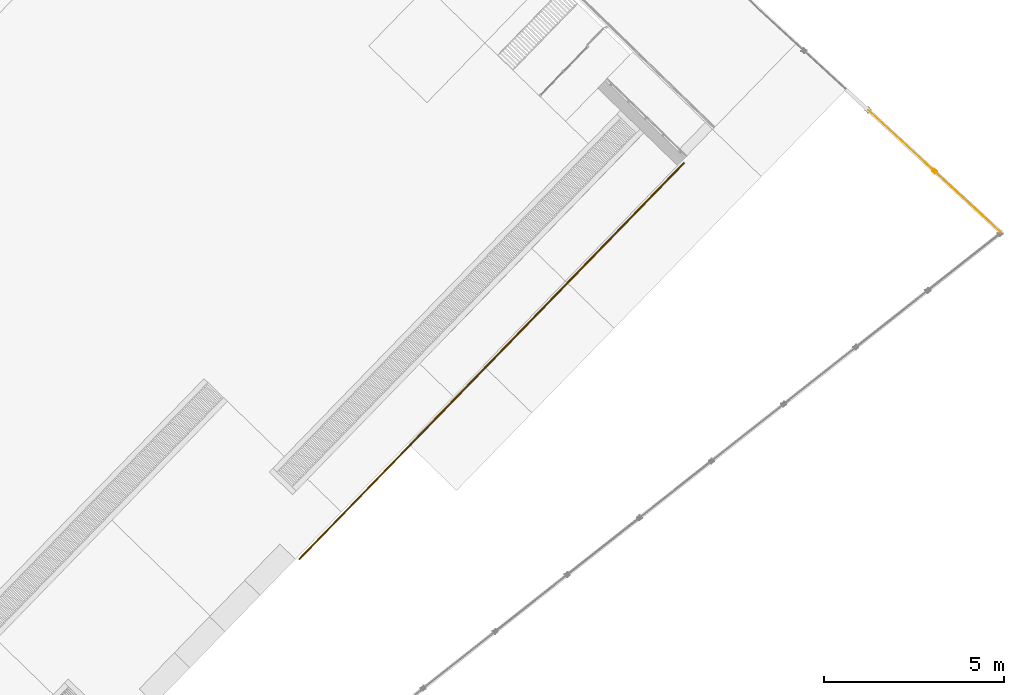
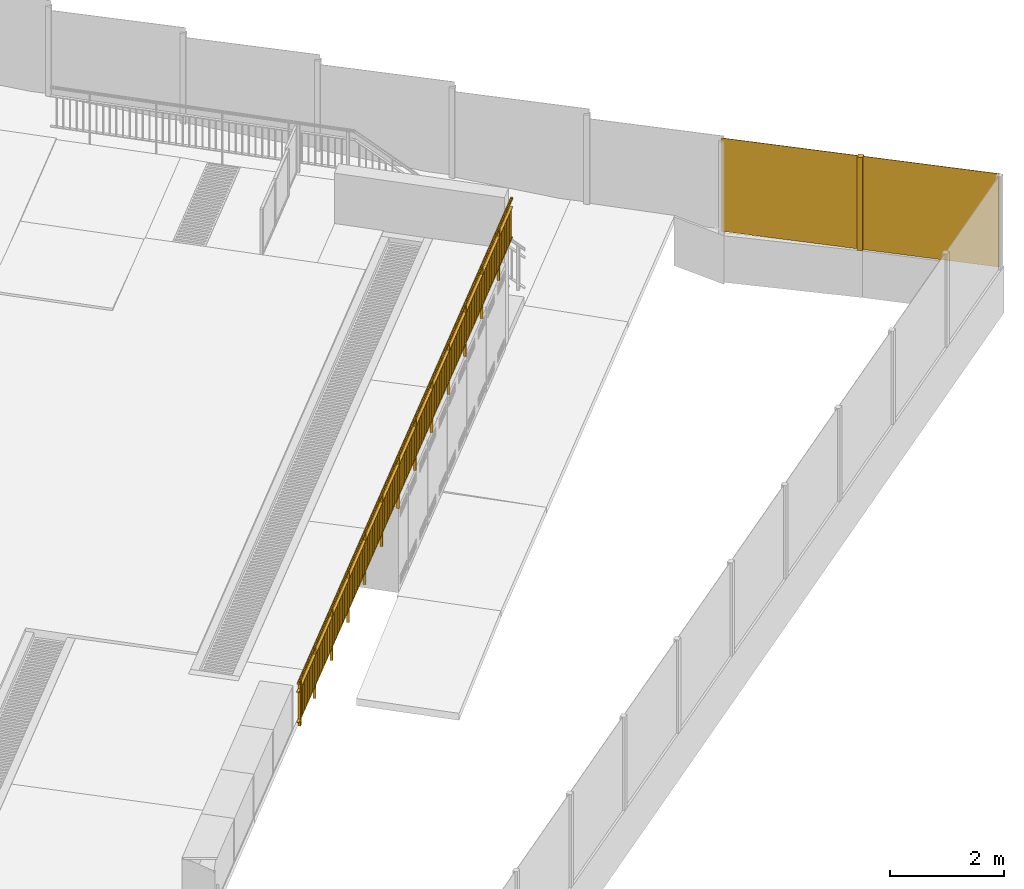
# One storey, part 27 of 37: 2 railings.
"""IFC2X3 building model written with IfcOpenShell, lengths in centimetres."""

from ifc_helpers import new_model, entity, si_unit, converted_unit, derived_unit, direction, frame, frame_2d, origin, origin_2d_with_axis, place, context, subcontext, project, spatial, rectangle, circle, extrude, material, material_list, element, save


model = new_model("IFC2X3")

# Units and contexts
model_context = context("Model", 3, precision=0.001, world=origin(), true_north=direction((0.717475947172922, 0.696583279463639)))
body_context = subcontext(model_context, "Body", "Model", "MODEL_VIEW")
ifc_project = project(units=[si_unit("LENGTHUNIT", "METRE", prefix="CENTI"), si_unit("AREAUNIT", "SQUARE_METRE"), si_unit("VOLUMEUNIT", "CUBIC_METRE"), converted_unit("PLANEANGLEUNIT", "DEGREE", entity("IfcRatioMeasure", 0.0174532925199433), si_unit("PLANEANGLEUNIT", "RADIAN"), dimensions=[0, 0, 0, 0, 0, 0, 0]), si_unit("MASSUNIT", "GRAM", prefix="KILO"), derived_unit("MASSDENSITYUNIT", [(si_unit("MASSUNIT", "GRAM", prefix="KILO"), 1), (si_unit("LENGTHUNIT", "METRE"), -3)]), si_unit("TIMEUNIT", "SECOND"), si_unit("FREQUENCYUNIT", "HERTZ"), si_unit("THERMODYNAMICTEMPERATUREUNIT", "DEGREE_CELSIUS"), derived_unit("THERMALTRANSMITTANCEUNIT", [(si_unit("MASSUNIT", "GRAM", prefix="KILO"), 1), (si_unit("THERMODYNAMICTEMPERATUREUNIT", "KELVIN"), -1), (si_unit("TIMEUNIT", "SECOND"), -3)]), derived_unit("VOLUMETRICFLOWRATEUNIT", [(si_unit("LENGTHUNIT", "METRE"), 3), (si_unit("TIMEUNIT", "SECOND"), -1)]), si_unit("ELECTRICCURRENTUNIT", "AMPERE"), si_unit("ELECTRICVOLTAGEUNIT", "VOLT"), si_unit("POWERUNIT", "WATT"), si_unit("FORCEUNIT", "NEWTON", prefix="KILO"), si_unit("ILLUMINANCEUNIT", "LUX"), si_unit("LUMINOUSFLUXUNIT", "LUMEN"), si_unit("LUMINOUSINTENSITYUNIT", "CANDELA"), derived_unit("USERDEFINED", [(si_unit("MASSUNIT", "GRAM", prefix="KILO"), -1), (si_unit("LENGTHUNIT", "METRE"), -2), (si_unit("TIMEUNIT", "SECOND"), 3), (si_unit("LUMINOUSFLUXUNIT", "LUMEN"), 1)]), derived_unit("LINEARVELOCITYUNIT", [(si_unit("LENGTHUNIT", "METRE"), 1), (si_unit("TIMEUNIT", "SECOND"), -1)]), si_unit("PRESSUREUNIT", "PASCAL"), derived_unit("USERDEFINED", [(si_unit("LENGTHUNIT", "METRE"), -2), (si_unit("MASSUNIT", "GRAM", prefix="KILO"), 1), (si_unit("TIMEUNIT", "SECOND"), -2)])], contexts=[model_context])

# Site, building, storey
site_placement = place(None, frame((0.0, 0.0, 0.0), z_axis=(0.0, 0.0, 1.0), x_axis=(0.696583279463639, 0.717475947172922, 0.0)))
site = spatial("IfcSite", under=ifc_project, at=site_placement, Name="Surface", CompositionType="ELEMENT")
building_placement = place(site_placement, origin())
building = spatial("IfcBuilding", under=site, at=building_placement, CompositionType="ELEMENT")
storey_placement = place(building_placement, origin())
storey = spatial("IfcBuildingStorey", under=building, at=storey_placement, Name="Nivel 0.00", CompositionType="ELEMENT", Elevation=0.0)

# Railings
ifc_material_1 = material(Name="Aluminum")
railing_1_placement = place(storey_placement, origin())
element("IfcRailing", 1, at=railing_1_placement, inside=storey, material=ifc_material_1, Name="Railing:BARANDA_RAMPA_1000mm", ObjectType="Railing:BARANDA_RAMPA_1000mm", PredefinedType="NOTDEFINED", context=body_context, shape_type="SweptSolid", body=[
    extrude(rectangle(XDim=1.19999999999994, YDim=4.99999999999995, at=frame_2d((-1.08302256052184e-13, 2.16715534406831e-13), x_axis=(1.0, 0.0))), frame((1669.74790965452, -1572.8079503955, 165.0)), (0.0, 0.0, 1.0), 63.7999999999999),
    extrude(rectangle(XDim=1.19999999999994, YDim=4.99999999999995, at=frame_2d((-1.08302256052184e-13, 2.16715534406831e-13), x_axis=(1.0, 0.0))), frame((1657.74790965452, -1572.8079503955, 165.0)), (0.0, 0.0, 1.0), 63.7999999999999),
    extrude(rectangle(XDim=1.19999999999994, YDim=4.99999999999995, at=frame_2d((-1.08302256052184e-13, 0.0), x_axis=(1.0, 0.0))), frame((1645.74790965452, -1572.8079503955, 165.0)), (0.0, 0.0, 1.0), 63.7999999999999),
    extrude(rectangle(XDim=1.19999999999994, YDim=4.99999999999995, at=frame_2d((1.08302256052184e-13, 0.0), x_axis=(1.0, 0.0))), frame((1633.74790965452, -1572.8079503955, 165.0)), (0.0, 0.0, 1.0), 63.7999999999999),
    extrude(rectangle(XDim=1.19999999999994, YDim=4.99999999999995, at=frame_2d((-1.08302256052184e-13, 0.0), x_axis=(1.0, 0.0))), frame((1621.74790965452, -1572.8079503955, 165.0)), (0.0, 0.0, 1.0), 63.7999999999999),
    extrude(rectangle(XDim=1.19999999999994, YDim=4.99999999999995, at=frame_2d((-1.08302256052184e-13, 0.0), x_axis=(1.0, 0.0))), frame((1609.74790965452, -1572.8079503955, 165.0)), (0.0, 0.0, 1.0), 63.7999999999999),
    extrude(rectangle(XDim=1.19999999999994, YDim=4.99999999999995, at=frame_2d((1.08302256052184e-13, 0.0), x_axis=(1.0, 0.0))), frame((1597.74790965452, -1572.8079503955, 165.0)), (0.0, 0.0, 1.0), 63.7999999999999),
    extrude(rectangle(XDim=1.19999999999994, YDim=4.99999999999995, at=frame_2d((1.08302256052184e-13, 0.0), x_axis=(1.0, 0.0))), frame((1585.74790965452, -1572.8079503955, 135.0)), (0.0, 0.0, 1.0), 110.0),
    extrude(rectangle(XDim=1.19999999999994, YDim=4.99999999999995, at=frame_2d((1.08302256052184e-13, 0.0), x_axis=(1.0, 0.0))), frame((1573.74790965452, -1572.8079503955, 165.0)), (0.0, 0.0, 1.0), 63.7999999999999),
    extrude(rectangle(XDim=1.19999999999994, YDim=4.99999999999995, at=frame_2d((-1.08302256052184e-13, 0.0), x_axis=(1.0, 0.0))), frame((1561.74790965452, -1572.8079503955, 165.0)), (0.0, 0.0, 1.0), 63.7999999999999),
    extrude(rectangle(XDim=1.19999999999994, YDim=4.99999999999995, at=frame_2d((1.08302256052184e-13, 0.0), x_axis=(1.0, 0.0))), frame((1549.74790965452, -1572.8079503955, 165.0)), (0.0, 0.0, 1.0), 63.7999999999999),
    extrude(rectangle(XDim=1.19999999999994, YDim=4.99999999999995, at=frame_2d((-1.08302256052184e-13, 0.0), x_axis=(1.0, 0.0))), frame((1537.74790965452, -1572.8079503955, 165.0)), (0.0, 0.0, 1.0), 63.7999999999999),
    extrude(rectangle(XDim=1.19999999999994, YDim=4.99999999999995, at=frame_2d((1.08302256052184e-13, 0.0), x_axis=(1.0, 0.0))), frame((1525.74790965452, -1572.8079503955, 165.0)), (0.0, 0.0, 1.0), 63.7999999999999),
    extrude(rectangle(XDim=1.19999999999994, YDim=4.99999999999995, at=frame_2d((-1.08302256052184e-13, 0.0), x_axis=(1.0, 0.0))), frame((1513.74790965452, -1572.8079503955, 165.0)), (0.0, 0.0, 1.0), 63.7999999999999),
    extrude(rectangle(XDim=1.19999999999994, YDim=4.99999999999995, at=frame_2d((-1.08302256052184e-13, 0.0), x_axis=(1.0, 0.0))), frame((1501.74790965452, -1572.8079503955, 165.0)), (0.0, 0.0, 1.0), 63.7999999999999),
    extrude(rectangle(XDim=1.19999999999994, YDim=4.99999999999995, at=frame_2d((1.08302256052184e-13, 0.0), x_axis=(1.0, 0.0))), frame((1489.74790965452, -1572.8079503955, 165.0)), (0.0, 0.0, 1.0), 63.7999999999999),
    extrude(rectangle(XDim=1.19999999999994, YDim=4.99999999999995, at=frame_2d((1.08302256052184e-13, 0.0), x_axis=(1.0, 0.0))), frame((1477.74790965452, -1572.8079503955, 165.0)), (0.0, 0.0, 1.0), 63.7999999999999),
    extrude(rectangle(XDim=1.19999999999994, YDim=4.99999999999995, at=frame_2d((1.08302256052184e-13, 0.0), x_axis=(1.0, 0.0))), frame((1465.74790965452, -1572.8079503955, 135.0)), (0.0, 0.0, 1.0), 110.0),
    extrude(rectangle(XDim=1.19999999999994, YDim=4.99999999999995, at=frame_2d((1.08302256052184e-13, 0.0), x_axis=(1.0, 0.0))), frame((1453.74790965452, -1572.8079503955, 165.0)), (0.0, 0.0, 1.0), 63.7999999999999),
    extrude(rectangle(XDim=1.19999999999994, YDim=4.99999999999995, at=frame_2d((1.08302256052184e-13, 0.0), x_axis=(1.0, 0.0))), frame((1441.74790965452, -1572.8079503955, 165.0)), (0.0, 0.0, 1.0), 63.7999999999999),
    extrude(rectangle(XDim=1.19999999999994, YDim=4.99999999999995, at=frame_2d((-1.08302256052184e-13, 0.0), x_axis=(1.0, 0.0))), frame((1429.74790965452, -1572.8079503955, 165.0)), (0.0, 0.0, 1.0), 63.7999999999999),
    extrude(rectangle(XDim=1.19999999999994, YDim=4.99999999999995, at=frame_2d((1.08302256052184e-13, 0.0), x_axis=(1.0, 0.0))), frame((1417.74790965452, -1572.8079503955, 165.0)), (0.0, 0.0, 1.0), 63.7999999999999),
    extrude(rectangle(XDim=1.19999999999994, YDim=4.99999999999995, at=frame_2d((-1.08302256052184e-13, 0.0), x_axis=(1.0, 0.0))), frame((1405.74790965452, -1572.8079503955, 165.0)), (0.0, 0.0, 1.0), 63.7999999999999),
    extrude(rectangle(XDim=1.19999999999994, YDim=4.99999999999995, at=frame_2d((1.08302256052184e-13, 0.0), x_axis=(1.0, 0.0))), frame((1393.74790965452, -1572.8079503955, 165.0)), (0.0, 0.0, 1.0), 63.7999999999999),
    extrude(rectangle(XDim=1.19999999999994, YDim=4.99999999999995, at=frame_2d((1.08302256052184e-13, 0.0), x_axis=(1.0, 0.0))), frame((1381.74790965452, -1572.8079503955, 165.0)), (0.0, 0.0, 1.0), 63.7999999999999),
    extrude(rectangle(XDim=1.19999999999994, YDim=4.99999999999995, at=frame_2d((1.08302256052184e-13, 0.0), x_axis=(1.0, 0.0))), frame((1369.74790965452, -1572.8079503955, 165.0)), (0.0, 0.0, 1.0), 63.7999999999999),
    extrude(rectangle(XDim=1.19999999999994, YDim=4.99999999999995, at=frame_2d((1.08302256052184e-13, 0.0), x_axis=(1.0, 0.0))), frame((1357.74790965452, -1572.8079503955, 165.0)), (0.0, 0.0, 1.0), 63.7999999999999),
    extrude(rectangle(XDim=1.19999999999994, YDim=4.99999999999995, at=frame_2d((-1.08302256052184e-13, 0.0), x_axis=(1.0, 0.0))), frame((1345.74790965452, -1572.8079503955, 135.0)), (0.0, 0.0, 1.0), 110.0),
    extrude(rectangle(XDim=1.19999999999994, YDim=4.99999999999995, at=frame_2d((1.08302256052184e-13, 0.0), x_axis=(1.0, 0.0))), frame((1333.74790965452, -1572.8079503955, 165.0)), (0.0, 0.0, 1.0), 63.7999999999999),
    extrude(rectangle(XDim=1.19999999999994, YDim=4.99999999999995, at=frame_2d((1.08302256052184e-13, 0.0), x_axis=(1.0, 0.0))), frame((1321.74790965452, -1572.8079503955, 165.0)), (0.0, 0.0, 1.0), 63.7999999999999),
    extrude(rectangle(XDim=1.19999999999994, YDim=4.99999999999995, at=frame_2d((-1.08302256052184e-13, 0.0), x_axis=(1.0, 0.0))), frame((1309.74790965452, -1572.8079503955, 165.0)), (0.0, 0.0, 1.0), 63.7999999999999),
    extrude(rectangle(XDim=1.19999999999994, YDim=4.99999999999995, at=frame_2d((-1.08302256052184e-13, 0.0), x_axis=(1.0, 0.0))), frame((1297.74790965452, -1572.8079503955, 165.0)), (0.0, 0.0, 1.0), 63.7999999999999),
    extrude(rectangle(XDim=1.19999999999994, YDim=4.99999999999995, at=frame_2d((1.08302256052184e-13, 0.0), x_axis=(1.0, 0.0))), frame((1285.74790965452, -1572.8079503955, 165.0)), (0.0, 0.0, 1.0), 63.7999999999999),
    extrude(rectangle(XDim=1.19999999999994, YDim=4.99999999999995, at=frame_2d((-1.08302256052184e-13, 0.0), x_axis=(1.0, 0.0))), frame((1273.74790965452, -1572.8079503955, 165.0)), (0.0, 0.0, 1.0), 63.7999999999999),
    extrude(rectangle(XDim=1.19999999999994, YDim=4.99999999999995, at=frame_2d((1.08302256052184e-13, 0.0), x_axis=(1.0, 0.0))), frame((1261.74790965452, -1572.8079503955, 165.0)), (0.0, 0.0, 1.0), 63.7999999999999),
    extrude(rectangle(XDim=1.19999999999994, YDim=4.99999999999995, at=frame_2d((1.08302256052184e-13, 0.0), x_axis=(1.0, 0.0))), frame((1249.74790965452, -1572.8079503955, 165.0)), (0.0, 0.0, 1.0), 63.7999999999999),
    extrude(rectangle(XDim=1.19999999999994, YDim=4.99999999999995, at=frame_2d((1.08302256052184e-13, 0.0), x_axis=(1.0, 0.0))), frame((1237.74790965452, -1572.8079503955, 165.0)), (0.0, 0.0, 1.0), 63.7999999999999),
    extrude(rectangle(XDim=1.19999999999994, YDim=4.99999999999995, at=frame_2d((-1.08302256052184e-13, 0.0), x_axis=(1.0, 0.0))), frame((1225.74790965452, -1572.8079503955, 135.0)), (0.0, 0.0, 1.0), 110.0),
    extrude(rectangle(XDim=1.19999999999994, YDim=4.99999999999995, at=frame_2d((1.08302256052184e-13, 0.0), x_axis=(1.0, 0.0))), frame((1213.74790965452, -1572.8079503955, 165.0)), (0.0, 0.0, 1.0), 63.7999999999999),
    extrude(rectangle(XDim=1.19999999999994, YDim=4.99999999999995, at=frame_2d((1.08302256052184e-13, 0.0), x_axis=(1.0, 0.0))), frame((1201.74790965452, -1572.8079503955, 165.0)), (0.0, 0.0, 1.0), 63.7999999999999),
    extrude(rectangle(XDim=1.19999999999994, YDim=4.99999999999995, at=frame_2d((-1.08302256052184e-13, 0.0), x_axis=(1.0, 0.0))), frame((1189.74790965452, -1572.8079503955, 165.0)), (0.0, 0.0, 1.0), 63.7999999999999),
    extrude(rectangle(XDim=1.19999999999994, YDim=4.99999999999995, at=frame_2d((-1.08302256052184e-13, 2.16715534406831e-13), x_axis=(1.0, 0.0))), frame((1177.74790965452, -1572.8079503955, 165.0)), (0.0, 0.0, 1.0), 63.7999999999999),
    extrude(rectangle(XDim=1.19999999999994, YDim=4.99999999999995, at=frame_2d((1.08302256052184e-13, 2.16715534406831e-13), x_axis=(1.0, 0.0))), frame((1165.74790965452, -1572.8079503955, 165.0)), (0.0, 0.0, 1.0), 63.7999999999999),
    extrude(rectangle(XDim=1.19999999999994, YDim=4.99999999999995, at=frame_2d((-1.08302256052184e-13, 2.16715534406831e-13), x_axis=(1.0, 0.0))), frame((1153.74790965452, -1572.8079503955, 165.0)), (0.0, 0.0, 1.0), 63.7999999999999),
    extrude(rectangle(XDim=1.19999999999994, YDim=4.99999999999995, at=frame_2d((-1.08302256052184e-13, 2.16715534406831e-13), x_axis=(1.0, 0.0))), frame((1141.74790965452, -1572.8079503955, 165.0)), (0.0, 0.0, 1.0), 63.7999999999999),
    extrude(rectangle(XDim=1.19999999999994, YDim=4.99999999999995, at=frame_2d((1.08302256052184e-13, 2.16715534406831e-13), x_axis=(1.0, 0.0))), frame((1129.74790965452, -1572.8079503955, 165.0)), (0.0, 0.0, 1.0), 63.7999999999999),
    extrude(rectangle(XDim=1.19999999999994, YDim=4.99999999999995, at=frame_2d((1.08302256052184e-13, 2.16715534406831e-13), x_axis=(1.0, 0.0))), frame((1117.74790965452, -1572.8079503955, 165.0)), (0.0, 0.0, 1.0), 63.7999999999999),
    extrude(rectangle(XDim=1.19999999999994, YDim=4.99999999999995, at=frame_2d((-1.08302256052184e-13, 0.0), x_axis=(1.0, 0.0))), frame((1105.74790965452, -1572.8079503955, 135.0)), (0.0, 0.0, 1.0), 110.0),
    extrude(rectangle(XDim=1.19999999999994, YDim=4.99999999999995, at=frame_2d((1.08302256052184e-13, 0.0), x_axis=(1.0, 0.0))), frame((1093.74790965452, -1572.8079503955, 165.0)), (0.0, 0.0, 1.0), 63.7999999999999),
    extrude(rectangle(XDim=1.19999999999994, YDim=4.99999999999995, at=frame_2d((-1.08302256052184e-13, 0.0), x_axis=(1.0, 0.0))), frame((1081.74790965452, -1572.8079503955, 165.0)), (0.0, 0.0, 1.0), 63.7999999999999),
    extrude(rectangle(XDim=1.19999999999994, YDim=4.99999999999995, at=frame_2d((1.08302256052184e-13, 0.0), x_axis=(1.0, 0.0))), frame((1069.74790965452, -1572.8079503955, 165.0)), (0.0, 0.0, 1.0), 63.7999999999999),
    extrude(rectangle(XDim=1.19999999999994, YDim=4.99999999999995, at=frame_2d((1.08302256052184e-13, 0.0), x_axis=(1.0, 0.0))), frame((1057.74790965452, -1572.8079503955, 165.0)), (0.0, 0.0, 1.0), 63.7999999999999),
    extrude(rectangle(XDim=1.19999999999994, YDim=4.99999999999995, at=frame_2d((-1.08302256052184e-13, 0.0), x_axis=(1.0, 0.0))), frame((1045.74790965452, -1572.8079503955, 165.0)), (0.0, 0.0, 1.0), 63.7999999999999),
    extrude(rectangle(XDim=1.19999999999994, YDim=4.99999999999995, at=frame_2d((-1.08302256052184e-13, 0.0), x_axis=(1.0, 0.0))), frame((1033.74790965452, -1572.8079503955, 165.0)), (0.0, 0.0, 1.0), 63.7999999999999),
    extrude(rectangle(XDim=1.19999999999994, YDim=4.99999999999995, at=frame_2d((-1.08302256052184e-13, 0.0), x_axis=(1.0, 0.0))), frame((1021.74790965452, -1572.8079503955, 165.0)), (0.0, 0.0, 1.0), 63.7999999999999),
    extrude(rectangle(XDim=1.19999999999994, YDim=4.99999999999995, at=frame_2d((-1.08302256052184e-13, 0.0), x_axis=(1.0, 0.0))), frame((1009.74790965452, -1572.8079503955, 165.0)), (0.0, 0.0, 1.0), 63.7999999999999),
    extrude(rectangle(XDim=1.19999999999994, YDim=4.99999999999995, at=frame_2d((-1.08302256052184e-13, 0.0), x_axis=(1.0, 0.0))), frame((997.747909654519, -1572.8079503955, 165.0)), (0.0, 0.0, 1.0), 63.7999999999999),
    extrude(rectangle(XDim=1.19999999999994, YDim=4.99999999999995, at=frame_2d((-1.08302256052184e-13, 0.0), x_axis=(1.0, 0.0))), frame((985.747909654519, -1572.8079503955, 135.0)), (0.0, 0.0, 1.0), 110.0),
    extrude(rectangle(XDim=1.20000000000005, YDim=4.99999999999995, at=frame_2d((-5.41233724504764e-14, 0.0), x_axis=(1.0, 0.0))), frame((973.747909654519, -1572.8079503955, 165.0)), (0.0, 0.0, 1.0), 63.7999999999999),
    extrude(rectangle(XDim=1.20000000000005, YDim=4.99999999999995, at=frame_2d((5.41233724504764e-14, 0.0), x_axis=(1.0, 0.0))), frame((961.747909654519, -1572.8079503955, 165.0)), (0.0, 0.0, 1.0), 63.7999999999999),
    extrude(rectangle(XDim=1.20000000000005, YDim=4.99999999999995, at=frame_2d((-5.41233724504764e-14, 0.0), x_axis=(1.0, 0.0))), frame((949.747909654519, -1572.8079503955, 165.0)), (0.0, 0.0, 1.0), 63.7999999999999),
    extrude(rectangle(XDim=1.20000000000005, YDim=4.99999999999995, at=frame_2d((-5.41233724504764e-14, 0.0), x_axis=(1.0, 0.0))), frame((937.747909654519, -1572.8079503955, 165.0)), (0.0, 0.0, 1.0), 63.7999999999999),
    extrude(rectangle(XDim=1.20000000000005, YDim=4.99999999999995, at=frame_2d((-5.41233724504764e-14, 0.0), x_axis=(1.0, 0.0))), frame((925.747909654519, -1572.8079503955, 165.0)), (0.0, 0.0, 1.0), 63.7999999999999),
    extrude(rectangle(XDim=1.20000000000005, YDim=4.99999999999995, at=frame_2d((-5.41233724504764e-14, 0.0), x_axis=(1.0, 0.0))), frame((913.747909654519, -1572.8079503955, 165.0)), (0.0, 0.0, 1.0), 63.7999999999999),
    extrude(rectangle(XDim=1.20000000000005, YDim=4.99999999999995, at=frame_2d((5.41233724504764e-14, 0.0), x_axis=(1.0, 0.0))), frame((901.747909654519, -1572.8079503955, 165.0)), (0.0, 0.0, 1.0), 63.7999999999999),
    extrude(rectangle(XDim=1.20000000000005, YDim=4.99999999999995, at=frame_2d((-5.41233724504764e-14, 0.0), x_axis=(1.0, 0.0))), frame((889.747909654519, -1572.8079503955, 165.0)), (0.0, 0.0, 1.0), 63.7999999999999),
    extrude(rectangle(XDim=1.20000000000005, YDim=4.99999999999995, at=frame_2d((5.41233724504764e-14, 0.0), x_axis=(1.0, 0.0))), frame((877.747909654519, -1572.8079503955, 165.0)), (0.0, 0.0, 1.0), 63.7999999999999),
    extrude(rectangle(XDim=1.20000000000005, YDim=4.99999999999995, at=frame_2d((-5.41233724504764e-14, 0.0), x_axis=(1.0, 0.0))), frame((865.747909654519, -1572.8079503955, 135.0)), (0.0, 0.0, 1.0), 110.0),
    extrude(rectangle(XDim=1.20000000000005, YDim=4.99999999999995, at=frame_2d((5.41233724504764e-14, 0.0), x_axis=(1.0, 0.0))), frame((853.747909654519, -1572.8079503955, 165.0)), (0.0, 0.0, 1.0), 63.7999999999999),
    extrude(rectangle(XDim=1.20000000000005, YDim=4.99999999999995, at=frame_2d((-5.41233724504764e-14, 0.0), x_axis=(1.0, 0.0))), frame((841.747909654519, -1572.8079503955, 165.0)), (0.0, 0.0, 1.0), 63.7999999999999),
    extrude(rectangle(XDim=1.20000000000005, YDim=4.99999999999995, at=frame_2d((5.41233724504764e-14, 0.0), x_axis=(1.0, 0.0))), frame((829.747909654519, -1572.8079503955, 165.0)), (0.0, 0.0, 1.0), 63.7999999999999),
    extrude(rectangle(XDim=1.20000000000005, YDim=4.99999999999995, at=frame_2d((-5.41233724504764e-14, 0.0), x_axis=(1.0, 0.0))), frame((817.747909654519, -1572.8079503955, 165.0)), (0.0, 0.0, 1.0), 63.7999999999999),
    extrude(rectangle(XDim=1.20000000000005, YDim=4.99999999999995, at=frame_2d((5.41233724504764e-14, 0.0), x_axis=(1.0, 0.0))), frame((805.747909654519, -1572.8079503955, 165.0)), (0.0, 0.0, 1.0), 63.7999999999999),
    extrude(rectangle(XDim=1.20000000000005, YDim=4.99999999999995, at=frame_2d((-5.41233724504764e-14, 0.0), x_axis=(1.0, 0.0))), frame((793.747909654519, -1572.8079503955, 165.0)), (0.0, 0.0, 1.0), 63.7999999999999),
    extrude(rectangle(XDim=1.20000000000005, YDim=4.99999999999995, at=frame_2d((-5.41233724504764e-14, 0.0), x_axis=(1.0, 0.0))), frame((781.747909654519, -1572.8079503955, 165.0)), (0.0, 0.0, 1.0), 63.7999999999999),
    extrude(rectangle(XDim=1.20000000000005, YDim=4.99999999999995, at=frame_2d((-5.41233724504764e-14, 0.0), x_axis=(1.0, 0.0))), frame((769.747909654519, -1572.8079503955, 165.0)), (0.0, 0.0, 1.0), 63.7999999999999),
    extrude(rectangle(XDim=1.20000000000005, YDim=4.99999999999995, at=frame_2d((-5.41233724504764e-14, 0.0), x_axis=(1.0, 0.0))), frame((757.747909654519, -1572.8079503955, 165.0)), (0.0, 0.0, 1.0), 63.7999999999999),
    extrude(rectangle(XDim=1.20000000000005, YDim=4.99999999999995, at=frame_2d((5.41233724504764e-14, 0.0), x_axis=(1.0, 0.0))), frame((745.747909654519, -1572.8079503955, 135.0)), (0.0, 0.0, 1.0), 110.0),
    extrude(rectangle(XDim=1.20000000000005, YDim=4.99999999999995, at=frame_2d((-5.41233724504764e-14, 0.0), x_axis=(1.0, 0.0))), frame((733.747909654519, -1572.8079503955, 165.0)), (0.0, 0.0, 1.0), 63.7999999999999),
    extrude(rectangle(XDim=1.20000000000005, YDim=4.99999999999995, at=frame_2d((5.41233724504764e-14, 0.0), x_axis=(1.0, 0.0))), frame((721.747909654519, -1572.8079503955, 165.0)), (0.0, 0.0, 1.0), 63.7999999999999),
    extrude(rectangle(XDim=1.20000000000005, YDim=4.99999999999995, at=frame_2d((5.41233724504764e-14, 0.0), x_axis=(1.0, 0.0))), frame((709.747909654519, -1572.8079503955, 165.0)), (0.0, 0.0, 1.0), 63.7999999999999),
    extrude(rectangle(XDim=1.20000000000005, YDim=4.99999999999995, at=frame_2d((5.41233724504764e-14, 0.0), x_axis=(1.0, 0.0))), frame((697.747909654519, -1572.8079503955, 165.0)), (0.0, 0.0, 1.0), 63.7999999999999),
    extrude(rectangle(XDim=1.20000000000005, YDim=4.99999999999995, at=frame_2d((-5.41233724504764e-14, 0.0), x_axis=(1.0, 0.0))), frame((685.747909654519, -1572.8079503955, 165.0)), (0.0, 0.0, 1.0), 63.7999999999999),
    extrude(rectangle(XDim=1.20000000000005, YDim=4.99999999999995, at=frame_2d((5.41233724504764e-14, 0.0), x_axis=(1.0, 0.0))), frame((673.747909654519, -1572.8079503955, 165.0)), (0.0, 0.0, 1.0), 63.7999999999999),
    extrude(rectangle(XDim=1.20000000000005, YDim=4.99999999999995, at=frame_2d((5.41233724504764e-14, 0.0), x_axis=(1.0, 0.0))), frame((661.747909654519, -1572.8079503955, 165.0)), (0.0, 0.0, 1.0), 63.7999999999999),
    extrude(rectangle(XDim=1.20000000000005, YDim=4.99999999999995, at=frame_2d((5.41233724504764e-14, 0.0), x_axis=(1.0, 0.0))), frame((649.747909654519, -1572.8079503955, 165.0)), (0.0, 0.0, 1.0), 63.7999999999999),
    extrude(rectangle(XDim=1.20000000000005, YDim=4.99999999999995, at=frame_2d((5.41233724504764e-14, 2.16715534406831e-13), x_axis=(1.0, 0.0))), frame((637.747909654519, -1572.8079503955, 165.0)), (0.0, 0.0, 1.0), 63.7999999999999),
    extrude(rectangle(XDim=1.20000000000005, YDim=4.99999999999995, at=frame_2d((5.41233724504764e-14, 2.16715534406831e-13), x_axis=(1.0, 0.0))), frame((625.747909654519, -1572.8079503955, 135.0)), (0.0, 0.0, 1.0), 110.0),
    extrude(rectangle(XDim=1.20000000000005, YDim=4.99999999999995, at=frame_2d((5.41233724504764e-14, 2.16715534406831e-13), x_axis=(1.0, 0.0))), frame((613.747909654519, -1572.8079503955, 165.0)), (0.0, 0.0, 1.0), 63.7999999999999),
    extrude(rectangle(XDim=1.20000000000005, YDim=4.99999999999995, at=frame_2d((5.41233724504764e-14, 2.16715534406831e-13), x_axis=(1.0, 0.0))), frame((601.747909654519, -1572.8079503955, 165.0)), (0.0, 0.0, 1.0), 63.7999999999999),
    extrude(rectangle(XDim=1.20000000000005, YDim=4.99999999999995, at=frame_2d((5.41233724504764e-14, 2.16715534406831e-13), x_axis=(1.0, 0.0))), frame((589.747909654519, -1572.8079503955, 165.0)), (0.0, 0.0, 1.0), 63.7999999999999),
    extrude(rectangle(XDim=1.20000000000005, YDim=4.99999999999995, at=frame_2d((5.41233724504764e-14, 0.0), x_axis=(1.0, 0.0))), frame((577.747909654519, -1572.8079503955, 165.0)), (0.0, 0.0, 1.0), 63.7999999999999),
    extrude(rectangle(XDim=1.20000000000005, YDim=4.99999999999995, at=frame_2d((5.41233724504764e-14, 0.0), x_axis=(1.0, 0.0))), frame((565.747909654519, -1572.8079503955, 165.0)), (0.0, 0.0, 1.0), 63.7999999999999),
    extrude(rectangle(XDim=1.20000000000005, YDim=4.99999999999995, at=frame_2d((-5.41233724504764e-14, 0.0), x_axis=(1.0, 0.0))), frame((553.747909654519, -1572.8079503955, 165.0)), (0.0, 0.0, 1.0), 63.7999999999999),
    extrude(rectangle(XDim=1.20000000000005, YDim=4.99999999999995, at=frame_2d((5.41233724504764e-14, 0.0), x_axis=(1.0, 0.0))), frame((541.747909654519, -1572.8079503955, 165.0)), (0.0, 0.0, 1.0), 63.7999999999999),
    extrude(rectangle(XDim=1.20000000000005, YDim=4.99999999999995, at=frame_2d((5.41233724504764e-14, 0.0), x_axis=(1.0, 0.0))), frame((529.747909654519, -1572.8079503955, 165.0)), (0.0, 0.0, 1.0), 63.7999999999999),
    extrude(rectangle(XDim=1.20000000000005, YDim=4.99999999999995, at=frame_2d((5.41233724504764e-14, 0.0), x_axis=(1.0, 0.0))), frame((517.747909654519, -1572.8079503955, 165.0)), (0.0, 0.0, 1.0), 63.7999999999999),
    extrude(rectangle(XDim=1.20000000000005, YDim=4.99999999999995, at=frame_2d((5.41233724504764e-14, 0.0), x_axis=(1.0, 0.0))), frame((505.747909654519, -1572.8079503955, 135.0)), (0.0, 0.0, 1.0), 110.0),
    extrude(rectangle(XDim=1.20000000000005, YDim=4.99999999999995, at=frame_2d((5.41233724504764e-14, 0.0), x_axis=(1.0, 0.0))), frame((493.747909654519, -1572.8079503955, 165.0)), (0.0, 0.0, 1.0), 63.7999999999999),
    extrude(rectangle(XDim=1.2, YDim=4.99999999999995, at=frame_2d((2.70894418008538e-14, 0.0), x_axis=(1.0, 0.0))), frame((481.747909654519, -1572.8079503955, 165.0)), (0.0, 0.0, 1.0), 63.7999999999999),
    extrude(rectangle(XDim=1.2, YDim=4.99999999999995, at=frame_2d((2.70894418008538e-14, 0.0), x_axis=(1.0, 0.0))), frame((469.747909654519, -1572.8079503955, 165.0)), (0.0, 0.0, 1.0), 63.7999999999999),
    extrude(rectangle(XDim=1.2, YDim=4.99999999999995, at=frame_2d((2.70894418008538e-14, 0.0), x_axis=(1.0, 0.0))), frame((457.747909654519, -1572.8079503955, 165.0)), (0.0, 0.0, 1.0), 63.7999999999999),
    extrude(rectangle(XDim=1.2, YDim=4.99999999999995, at=frame_2d((2.70894418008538e-14, 0.0), x_axis=(1.0, 0.0))), frame((445.747909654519, -1572.8079503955, 165.0)), (0.0, 0.0, 1.0), 63.7999999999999),
    extrude(rectangle(XDim=1.2, YDim=4.99999999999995, at=frame_2d((2.70894418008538e-14, 0.0), x_axis=(1.0, 0.0))), frame((433.747909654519, -1572.8079503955, 165.0)), (0.0, 0.0, 1.0), 63.7999999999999),
    extrude(rectangle(XDim=1.2, YDim=4.99999999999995, at=frame_2d((2.70894418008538e-14, 0.0), x_axis=(1.0, 0.0))), frame((421.747909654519, -1572.8079503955, 165.0)), (0.0, 0.0, 1.0), 63.7999999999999),
    extrude(rectangle(XDim=1.2, YDim=4.99999999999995, at=frame_2d((2.70894418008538e-14, 0.0), x_axis=(1.0, 0.0))), frame((409.747909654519, -1572.8079503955, 165.0)), (0.0, 0.0, 1.0), 63.7999999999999),
    extrude(rectangle(XDim=1.2, YDim=4.99999999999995, at=frame_2d((2.70894418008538e-14, 0.0), x_axis=(1.0, 0.0))), frame((397.747909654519, -1572.8079503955, 165.0)), (0.0, 0.0, 1.0), 63.7999999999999),
    extrude(rectangle(XDim=1.2, YDim=4.99999999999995, at=frame_2d((2.70894418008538e-14, 0.0), x_axis=(1.0, 0.0))), frame((385.747909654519, -1572.8079503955, 135.0)), (0.0, 0.0, 1.0), 110.0),
    extrude(rectangle(XDim=1.2, YDim=4.99999999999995, at=frame_2d((2.70894418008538e-14, 0.0), x_axis=(1.0, 0.0))), frame((373.747909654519, -1572.8079503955, 165.0)), (0.0, 0.0, 1.0), 63.7999999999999),
    extrude(rectangle(XDim=1.2, YDim=4.99999999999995, at=frame_2d((2.70894418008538e-14, 0.0), x_axis=(1.0, 0.0))), frame((361.747909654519, -1572.8079503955, 165.0)), (0.0, 0.0, 1.0), 63.7999999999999),
    extrude(rectangle(XDim=1.2, YDim=4.99999999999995, at=frame_2d((-2.70894418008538e-14, 0.0), x_axis=(1.0, 0.0))), frame((349.747909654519, -1572.8079503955, 165.0)), (0.0, 0.0, 1.0), 63.7999999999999),
    extrude(rectangle(XDim=1.2, YDim=4.99999999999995, at=frame_2d((2.70894418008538e-14, 0.0), x_axis=(1.0, 0.0))), frame((337.747909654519, -1572.8079503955, 165.0)), (0.0, 0.0, 1.0), 63.7999999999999),
    extrude(rectangle(XDim=1.2, YDim=4.99999999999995, at=frame_2d((2.70894418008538e-14, 0.0), x_axis=(1.0, 0.0))), frame((325.747909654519, -1572.8079503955, 165.0)), (0.0, 0.0, 1.0), 63.7999999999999),
    extrude(rectangle(XDim=1.2, YDim=4.99999999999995, at=frame_2d((2.70894418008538e-14, 0.0), x_axis=(1.0, 0.0))), frame((313.747909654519, -1572.8079503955, 165.0)), (0.0, 0.0, 1.0), 63.7999999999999),
    extrude(rectangle(XDim=1.2, YDim=4.99999999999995, at=frame_2d((2.70894418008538e-14, 0.0), x_axis=(1.0, 0.0))), frame((301.747909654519, -1572.8079503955, 165.0)), (0.0, 0.0, 1.0), 63.7999999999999),
    extrude(rectangle(XDim=1.2, YDim=4.99999999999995, at=frame_2d((2.70894418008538e-14, 0.0), x_axis=(1.0, 0.0))), frame((289.747909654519, -1572.8079503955, 165.0)), (0.0, 0.0, 1.0), 63.7999999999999),
    extrude(rectangle(XDim=1.2, YDim=4.99999999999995, at=frame_2d((2.70894418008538e-14, 0.0), x_axis=(1.0, 0.0))), frame((277.747909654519, -1572.8079503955, 165.0)), (0.0, 0.0, 1.0), 63.7999999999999),
    extrude(rectangle(XDim=1.2, YDim=4.99999999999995, at=frame_2d((2.70894418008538e-14, 0.0), x_axis=(1.0, 0.0))), frame((265.747909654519, -1572.8079503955, 135.0)), (0.0, 0.0, 1.0), 110.0),
    extrude(rectangle(XDim=1.2, YDim=4.99999999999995, at=frame_2d((2.70894418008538e-14, 0.0), x_axis=(1.0, 0.0))), frame((253.747909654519, -1572.8079503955, 165.0)), (0.0, 0.0, 1.0), 63.7999999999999),
    extrude(rectangle(XDim=1.2, YDim=4.99999999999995, at=origin_2d_with_axis()), frame((241.747909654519, -1572.8079503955, 165.0)), (0.0, 0.0, 1.0), 63.7999999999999),
    extrude(rectangle(XDim=1.2, YDim=4.99999999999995, at=origin_2d_with_axis()), frame((229.747909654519, -1572.8079503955, 165.0)), (0.0, 0.0, 1.0), 63.7999999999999),
    extrude(rectangle(XDim=1.2, YDim=4.99999999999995, at=origin_2d_with_axis()), frame((217.747909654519, -1572.8079503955, 165.0)), (0.0, 0.0, 1.0), 63.7999999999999),
    extrude(rectangle(XDim=1.2, YDim=4.99999999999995, at=origin_2d_with_axis()), frame((205.747909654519, -1572.8079503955, 165.0)), (0.0, 0.0, 1.0), 63.7999999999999),
    extrude(rectangle(XDim=1.2, YDim=4.99999999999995, at=origin_2d_with_axis()), frame((193.747909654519, -1572.8079503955, 165.0)), (0.0, 0.0, 1.0), 63.7999999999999),
    extrude(rectangle(XDim=1.2, YDim=4.99999999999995, at=origin_2d_with_axis()), frame((181.747909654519, -1572.8079503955, 165.0)), (0.0, 0.0, 1.0), 63.7999999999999),
    extrude(rectangle(XDim=1.2, YDim=4.99999999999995, at=origin_2d_with_axis()), frame((169.747909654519, -1572.8079503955, 165.0)), (0.0, 0.0, 1.0), 63.7999999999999),
    extrude(rectangle(XDim=1.2, YDim=4.99999999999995, at=origin_2d_with_axis()), frame((157.747909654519, -1572.8079503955, 165.0)), (0.0, 0.0, 1.0), 63.7999999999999),
    extrude(rectangle(XDim=5.0, YDim=4.99999999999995, at=frame_2d((-1.35447209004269e-14, -1.08357767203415e-13), x_axis=(1.0, 0.0))), frame((158.247909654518, -1572.8079503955, 150.0)), (0.0, 0.0, 1.0), 94.9999999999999),
    extrude(rectangle(XDim=1534.0, YDim=4.99999999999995, at=origin_2d_with_axis()), frame((912.747909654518, -1572.8079503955, 228.8)), (0.0, 0.0, 1.0), 1.2),
    extrude(rectangle(XDim=1534.0, YDim=4.99999999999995, at=origin_2d_with_axis()), frame((912.747909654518, -1572.8079503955, 163.8)), (0.0, 0.0, 1.0), 1.2),
    extrude(circle(Radius=2.5, at=origin_2d_with_axis()), frame((145.747909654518, -1573.3079503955, 247.5), z_axis=(1.0, 0.0, 0.0), x_axis=(0.0, 1.0, 0.0)), (0.0, 0.0, 1.0), 1534.0),
])
ifc_material_2 = material(Name="REJA_MALLA_ACMA")
ifc_material_list = material_list([ifc_material_2, ifc_material_1])
railing_2_placement = place(storey_placement, origin())
element("IfcRailing", 2, at=railing_2_placement, inside=storey, material=ifc_material_list, Name="Railing:REJA_PERIMETRAL_S-PILAR_2000mm", ObjectType="Railing:REJA_PERIMETRAL_S-PILAR_2000mm", PredefinedType="NOTDEFINED", context=body_context, shape_type="SweptSolid", body=[
    extrude(rectangle(XDim=1.00000000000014, YDim=250.0, at=frame_2d((-2.16354711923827e-13, 1.4210854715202e-14), x_axis=(1.0, 0.0))), frame((2142.48273425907, -1962.7151700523, -90.0), z_axis=(0.0, 0.0, 1.0), x_axis=(0.999667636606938, 0.025780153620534, 0.0)), (0.0, 0.0, 1.0), 200.0),
    extrude(rectangle(XDim=10.0000000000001, YDim=10.0000000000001, at=frame_2d((2.22044604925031e-13, 2.1094237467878e-13), x_axis=(1.0, 0.0))), frame((2145.70331906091, -2087.59861507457, -90.0), z_axis=(0.0, 0.0, 1.0), x_axis=(0.999667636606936, 0.0257801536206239, 0.0)), (0.0, 0.0, 1.0), 200.0),
    extrude(rectangle(XDim=1.00000000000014, YDim=250.0, at=frame_2d((2.10859107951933e-13, -2.27373675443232e-13), x_axis=(1.0, 0.0))), frame((2148.92390386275, -2212.48206009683, -90.0), z_axis=(0.0, 0.0, 1.0), x_axis=(0.999667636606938, 0.025780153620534, 0.0)), (0.0, 0.0, 1.0), 200.0),
])

save(model, "model.ifc")
